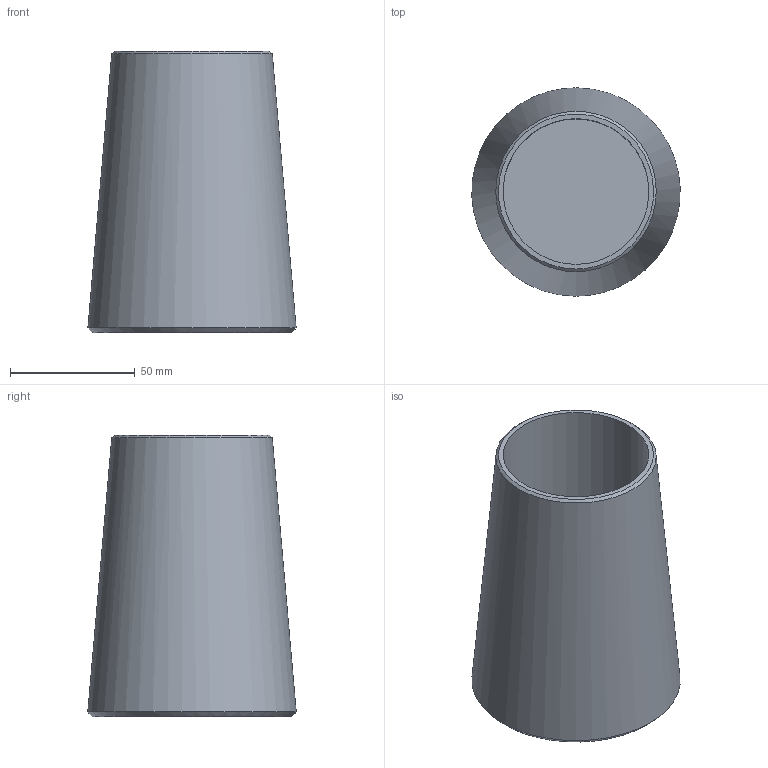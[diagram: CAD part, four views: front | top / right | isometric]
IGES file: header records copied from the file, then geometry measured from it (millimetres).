
Global section: file name: 520-056-KMU; native system: Autodesk Inventor 2016; preprocessor: unknown; author: BAYR; date: 20200618.123436; units: millimetre
Bounding box: 83.59 x 83.65 x 113 mm (x, y, z)
Volume: 261395.4 mm3; surface area: 50376.2 mm2
Topology: 1 solids, 1 shells, 7 faces, 14 edges, 10 vertices
Faces by surface type: bspline 7
